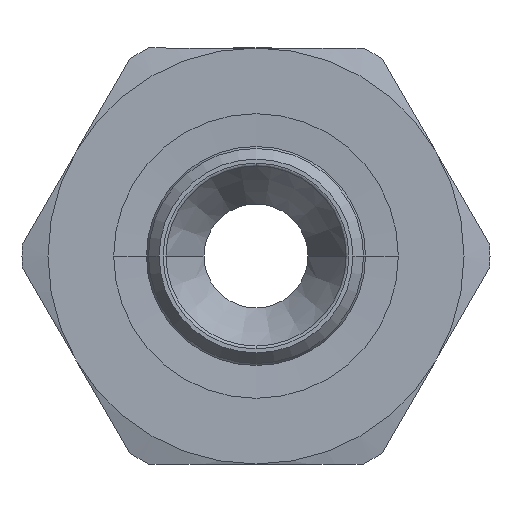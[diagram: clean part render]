
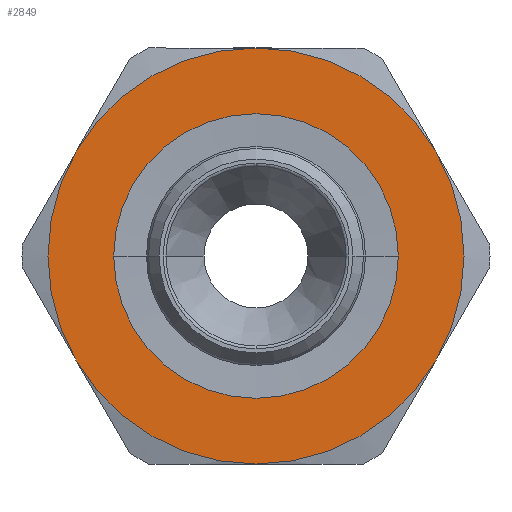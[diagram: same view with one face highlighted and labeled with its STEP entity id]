
A CAD part, left-side view. The second image highlights one B-rep face of the part: STEP entity #2849.
In plain terms, the highlighted planar face has unit normal (-1, 0, 0) as drawn and (0, 0, 1) by its records, which use the part's own axes.
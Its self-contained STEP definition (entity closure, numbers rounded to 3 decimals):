
#1176=CARTESIAN_POINT('',(0.,-10.95,4.5));
#1177=VERTEX_POINT('',#1176);
#1193=CARTESIAN_POINT('',(0.,10.95,4.5));
#1194=VERTEX_POINT('',#1193);
#1201=CARTESIAN_POINT('',(0.,0.,4.5));
#1202=DIRECTION('',(0.0,0.0,-1.0));
#1203=DIRECTION('',(0.0,-1.0,0.0));
#1204=AXIS2_PLACEMENT_3D('',#1201,#1202,#1203);
#1205=CIRCLE('',#1204,10.95);
#1206=EDGE_CURVE('',#1177,#1194,#1205,.T.);
#1663=CARTESIAN_POINT('',(0.,0.,4.5));
#1664=DIRECTION('',(0.0,0.0,-1.0));
#1665=DIRECTION('',(0.0,-1.0,0.0));
#1666=AXIS2_PLACEMENT_3D('',#1663,#1664,#1665);
#1667=CIRCLE('',#1666,10.95);
#1668=EDGE_CURVE('',#1194,#1177,#1667,.T.);
#2222=CARTESIAN_POINT('',(8.,-13.856,4.5));
#2223=VERTEX_POINT('',#2222);
#2237=CARTESIAN_POINT('',(-8.,-13.856,4.5));
#2238=VERTEX_POINT('',#2237);
#2239=CARTESIAN_POINT('',(0.,0.0,4.5));
#2240=DIRECTION('',(0.0,0.0,1.0));
#2241=DIRECTION('',(1.0,0.0,0.0));
#2242=AXIS2_PLACEMENT_3D('',#2239,#2240,#2241);
#2243=CIRCLE('',#2242,16.);
#2244=EDGE_CURVE('',#2238,#2223,#2243,.T.);
#2322=CARTESIAN_POINT('',(-16.0,0.,4.5));
#2323=VERTEX_POINT('',#2322);
#2324=CARTESIAN_POINT('',(0.,0.0,4.5));
#2325=DIRECTION('',(0.0,0.0,1.0));
#2326=DIRECTION('',(1.0,0.0,0.0));
#2327=AXIS2_PLACEMENT_3D('',#2324,#2325,#2326);
#2328=CIRCLE('',#2327,16.);
#2329=EDGE_CURVE('',#2323,#2238,#2328,.T.);
#2406=CARTESIAN_POINT('',(-8.,13.856,4.5));
#2407=VERTEX_POINT('',#2406);
#2408=CARTESIAN_POINT('',(0.,0.0,4.5));
#2409=DIRECTION('',(0.0,0.0,1.0));
#2410=DIRECTION('',(1.0,0.0,0.0));
#2411=AXIS2_PLACEMENT_3D('',#2408,#2409,#2410);
#2412=CIRCLE('',#2411,16.);
#2413=EDGE_CURVE('',#2407,#2323,#2412,.T.);
#2490=CARTESIAN_POINT('',(8.,13.856,4.5));
#2491=VERTEX_POINT('',#2490);
#2492=CARTESIAN_POINT('',(0.,0.0,4.5));
#2493=DIRECTION('',(0.0,0.0,1.0));
#2494=DIRECTION('',(1.0,0.0,0.0));
#2495=AXIS2_PLACEMENT_3D('',#2492,#2493,#2494);
#2496=CIRCLE('',#2495,16.);
#2497=EDGE_CURVE('',#2491,#2407,#2496,.T.);
#2575=CARTESIAN_POINT('',(16.0,0.0,4.5));
#2576=VERTEX_POINT('',#2575);
#2577=CARTESIAN_POINT('',(0.,0.0,4.5));
#2578=DIRECTION('',(0.0,0.0,1.0));
#2579=DIRECTION('',(1.0,0.0,0.0));
#2580=AXIS2_PLACEMENT_3D('',#2577,#2578,#2579);
#2581=CIRCLE('',#2580,16.);
#2582=EDGE_CURVE('',#2576,#2491,#2581,.T.);
#2659=CARTESIAN_POINT('',(0.,0.0,4.5));
#2660=DIRECTION('',(0.0,0.0,1.0));
#2661=DIRECTION('',(1.0,0.0,0.0));
#2662=AXIS2_PLACEMENT_3D('',#2659,#2660,#2661);
#2663=CIRCLE('',#2662,16.);
#2664=EDGE_CURVE('',#2223,#2576,#2663,.T.);
#2832=CARTESIAN_POINT('',(0.,0.,4.5));
#2833=DIRECTION('',(0.0,0.0,1.0));
#2834=DIRECTION('',(1.0,0.0,0.0));
#2835=AXIS2_PLACEMENT_3D('',#2832,#2833,#2834);
#2836=PLANE('',#2835);
#2837=ORIENTED_EDGE('',*,*,#2664,.T.);
#2838=ORIENTED_EDGE('',*,*,#2582,.T.);
#2839=ORIENTED_EDGE('',*,*,#2497,.T.);
#2840=ORIENTED_EDGE('',*,*,#2413,.T.);
#2841=ORIENTED_EDGE('',*,*,#2329,.T.);
#2842=ORIENTED_EDGE('',*,*,#2244,.T.);
#2843=EDGE_LOOP('',(#2837,#2838,#2839,#2840,#2841,#2842));
#2844=FACE_OUTER_BOUND('',#2843,.T.);
#2845=ORIENTED_EDGE('',*,*,#1206,.T.);
#2846=ORIENTED_EDGE('',*,*,#1668,.T.);
#2847=EDGE_LOOP('',(#2845,#2846));
#2848=FACE_BOUND('',#2847,.T.);
#2849=ADVANCED_FACE('',(#2844,#2848),#2836,.T.);
